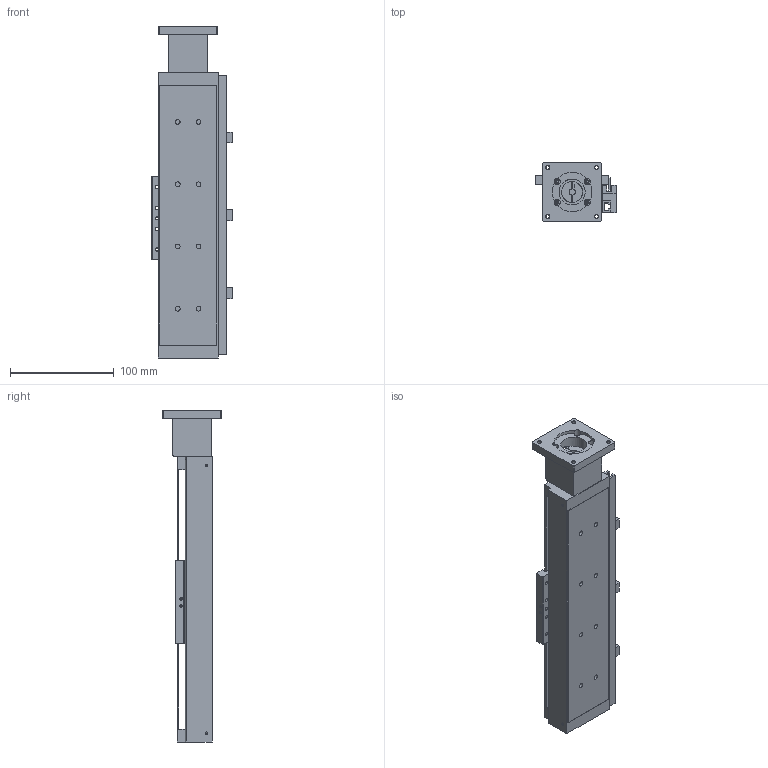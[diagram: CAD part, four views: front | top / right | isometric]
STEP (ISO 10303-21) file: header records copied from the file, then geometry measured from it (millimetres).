
FILE_DESCRIPTION((''),'2;1');
FILE_NAME('E:\uia actuator\UIA actuator 3d- 2009\Standard ball screw actuator\UIA058R7DC\UIA058R7DC3-STEP file\with motor mount\UIA058R7DC step file 2016\UIA058R7DC-150-R0803-M23-P13-C10-S.stp','2016-04-15T16:04:42',('h029'),(''),'Autodesk Inventor 11','Autodesk Inventor 11','');
FILE_SCHEMA(('AUTOMOTIVE_DESIGN { 1 0 10303 214 1 1 1 1 }'));
Length unit declared in the file: millimetre
Products named in the file (11): UIA058R7DC-150-R0803-M23-P13-C10-S; UIA058R7DC-150-BODY; UIA058R7DC-150-SENSOR RAIL; UIA058R7DC-CARRIAGE; UIA058R7DC SENSOR FLAG; 10-100 0110-M23 MotorMOUNT; SOH-20C; centre piece; side 2; side 1; NF E 25-125  (Regular Thread) M2.5 x 6
Assembly tree (10 placements, depth 3):
  UIA058R7DC-150-R0803-M23-P13-C10-S
    UIA058R7DC-150-BODY
    UIA058R7DC-150-SENSOR RAIL
    UIA058R7DC-CARRIAGE
    UIA058R7DC SENSOR FLAG
    10-100 0110-M23 MotorMOUNT
    SOH-20C
      centre piece
      side 2
      side 1
      NF E 25-125  (Regular Thread) M2.5 x 6
Bounding box: 77.4 x 57 x 320 mm (x, y, z)
Volume: 322037.8 mm3; surface area: 157071.5 mm2
Topology: 10 solids, 10 shells, 339 faces, 943 edges, 620 vertices
Faces by surface type: plane 204, cylinder 94, cone 34, bspline 6, torus 1
Full cylindrical faces by diameter (mm): 2.013 x4, 2.459 x8, 2.5 x1, 3 x8, 3.242 x12, 3.5 x6, 4 x2, 4.5 x9, 6 x5, 7.5 x8, 16 x2, 20 x3, 25 x1
Entity records: 10797 total; most frequent: CARTESIAN_POINT 2198, DIRECTION 1728, ORIENTED_EDGE 1582, EDGE_CURVE 791, AXIS2_PLACEMENT_3D 604, VERTEX_POINT 574, EDGE_LOOP 540, VECTOR 520
